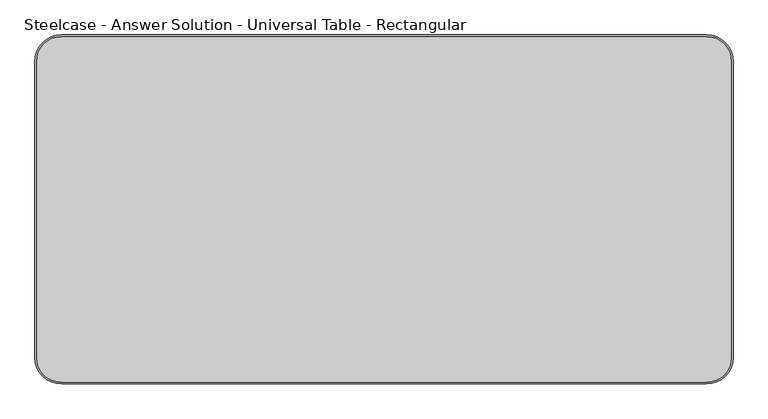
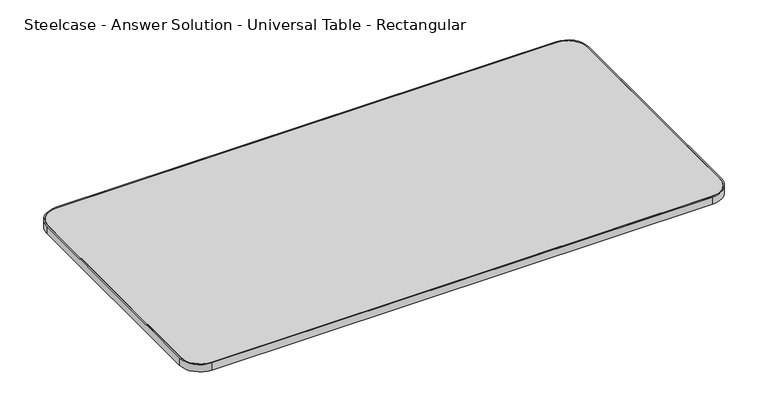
"""IFC4 building model written with IfcOpenShell, lengths in millimetres: furniture geometry, Steelcase - Answer Solution - Universal Table - Rectangular : 42D x 84W."""

from ifc_helpers import new_model, si_unit, point, frame, frame_2d, origin, place, context, project, spatial, polyline, circle_curve, trimmed, segment, composite_curve, outline, extrude, source, transform, mapped, element, save


def steelcase_answer_solution_universal_table_rectangular_500580d4(model_context):
    return source(origin(), model_context, "Body", "SweptSolid", [
        extrude(outline(composite_curve([segment(polyline([(5.08, -985.52), (5.08, -81.28)]), True, "CONTINUOUS"), segment(trimmed(circle_curve(frame_2d((81.28, -81.28)), 76.2), [point((5.08, -81.28))], [point((81.28, -5.08))], False, "CARTESIAN"), True, "CONTINUOUS"), segment(polyline([(81.28, -5.08), (2052.32, -5.08)]), True, "CONTINUOUS"), segment(trimmed(circle_curve(frame_2d((2052.32, -81.28)), 76.2), [point((2052.32, -5.08))], [point((2128.52, -81.28))], False, "CARTESIAN"), True, "CONTINUOUS"), segment(polyline([(2128.52, -81.28), (2128.52, -985.52)]), True, "CONTINUOUS"), segment(trimmed(circle_curve(frame_2d((2052.32, -985.52)), 76.2), [point((2128.52, -985.52))], [point((2052.32, -1061.72))], False, "CARTESIAN"), True, "CONTINUOUS"), segment(polyline([(2052.32, -1061.72), (81.28, -1061.72)]), True, "CONTINUOUS"), segment(trimmed(circle_curve(frame_2d((81.28, -985.52)), 76.2), [point((81.28, -1061.72))], [point((5.08, -985.52))], False, "CARTESIAN"), True, "CONTINUOUS")], self_intersect=False)), frame((0.0, 0.0, 668.274), z_axis=(0.0, 0.0, 1.0), x_axis=(1.0, 0.0, 0.0)), (0.0, 0.0, 1.0), 30.0990349),
        extrude(outline(composite_curve([segment(polyline([(81.28, 0.0), (2052.32, 0.0)]), True, "CONTINUOUS"), segment(trimmed(circle_curve(frame_2d((2052.32, -81.28)), 81.28), [point((2052.32, 0.0))], [point((2133.6, -81.28))], False, "CARTESIAN"), True, "CONTINUOUS"), segment(polyline([(2133.6, -81.28), (2133.6, -985.52)]), True, "CONTINUOUS"), segment(trimmed(circle_curve(frame_2d((2052.32, -985.52)), 81.28), [point((2133.6, -985.52))], [point((2052.32, -1066.8))], False, "CARTESIAN"), True, "CONTINUOUS"), segment(polyline([(2052.32, -1066.8), (81.28, -1066.8)]), True, "CONTINUOUS"), segment(trimmed(circle_curve(frame_2d((81.28, -985.52)), 81.28), [point((81.28, -1066.8))], [point((0.0, -985.52))], False, "CARTESIAN"), True, "CONTINUOUS"), segment(polyline([(0.0, -985.52), (0.0, -81.28)]), True, "CONTINUOUS"), segment(trimmed(circle_curve(frame_2d((81.28, -81.28)), 81.28), [point((0.0, -81.28))], [point((81.28, 0.0))], False, "CARTESIAN"), True, "CONTINUOUS")], self_intersect=False), holes=[composite_curve([segment(trimmed(circle_curve(frame_2d((81.28, -81.28)), 76.2), [point((81.28, -5.08))], [point((5.08, -81.28))], True, "CARTESIAN"), True, "CONTINUOUS"), segment(polyline([(5.08, -81.28), (5.08, -985.52)]), True, "CONTINUOUS"), segment(trimmed(circle_curve(frame_2d((81.28, -985.52)), 76.2), [point((5.08, -985.52))], [point((81.28, -1061.72))], True, "CARTESIAN"), True, "CONTINUOUS"), segment(polyline([(81.28, -1061.72), (2052.32, -1061.72)]), True, "CONTINUOUS"), segment(trimmed(circle_curve(frame_2d((2052.32, -985.52)), 76.2), [point((2052.32, -1061.72))], [point((2128.52, -985.52))], True, "CARTESIAN"), True, "CONTINUOUS"), segment(polyline([(2128.52, -985.52), (2128.52, -81.28)]), True, "CONTINUOUS"), segment(trimmed(circle_curve(frame_2d((2052.32, -81.28)), 76.2), [point((2128.52, -81.28))], [point((2052.32, -5.08))], True, "CARTESIAN"), True, "CONTINUOUS"), segment(polyline([(2052.32, -5.08), (81.28, -5.08)]), True, "CONTINUOUS")], self_intersect=False)]), frame((0.0, 0.0, 668.274), z_axis=(0.0, 0.0, 1.0), x_axis=(1.0, 0.0, 0.0)), (0.0, 0.0, 1.0), 30.0990349),
    ])


if __name__ == "__main__":
    model = new_model("IFC4")
    model_context = context("Model", 3, world=origin())
    ifc_project = project(units=[si_unit("LENGTHUNIT", "METRE", prefix="MILLI")], contexts=[model_context])
    site = spatial("IfcSite", under=ifc_project)
    building = spatial("IfcBuilding", under=site)
    placement = place(None, origin())
    steelcase_answer_solution_universal_table_rectangular_shape = steelcase_answer_solution_universal_table_rectangular_500580d4(model_context)
    element("IfcFurniture", 1, ObjectType="Steelcase - Answer Solution - Universal Table - Rectangular : 42D x 84W", at=placement, inside=building, context=model_context, shape_type="MappedRepresentation", body=[
        mapped(steelcase_answer_solution_universal_table_rectangular_shape, transform((0.0, 0.0, 0.0), x_axis=(1.0, 0.0, 0.0), y_axis=(0.0, 1.0, 0.0), z_axis=(0.0, 0.0, 1.0))),
    ])
    save(model, "model.ifc")
